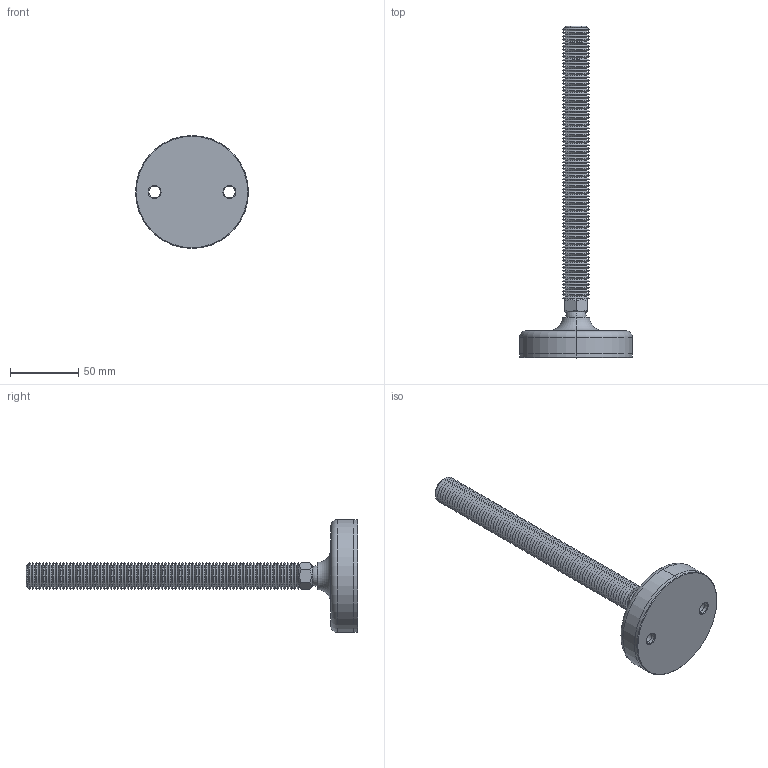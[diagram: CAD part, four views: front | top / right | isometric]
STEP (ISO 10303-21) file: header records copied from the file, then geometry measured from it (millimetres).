
FILE_DESCRIPTION (( 'STEP AP203' ), '1' );
FILE_NAME ('34724.W2005.step', '2019-11-28T22:16:52', ( '' ), ( '' ), 'SwSTEP 2.0', 'SolidWorks 2017', '' );
FILE_SCHEMA (( 'CONFIG_CONTROL_DESIGN' ));
Length unit declared in the file: millimetre
Products named in the file (4): 34724.W2005; Part3_34724.W2005; Part1_34724.W2005; Part2_34724.W2005
Assembly tree (3 placements, depth 2):
  34724.W2005
    Part1_34724.W2005
    Part2_34724.W2005
    Part3_34724.W2005
Bounding box: 83 x 244 x 83 mm (x, y, z)
Volume: 162542.4 mm3; surface area: 51282.5 mm2
Topology: 3 solids, 3 shells, 372 faces, 759 edges, 393 vertices
Faces by surface type: cone 338, plane 14, cylinder 12, sphere 4, torus 4
Entity records: 9962 total; most frequent: DIRECTION 1876, CARTESIAN_POINT 1664, ORIENTED_EDGE 1500, AXIS2_PLACEMENT_3D 760, EDGE_CURVE 750, VERTEX_POINT 388, EDGE_LOOP 384, CIRCLE 382
